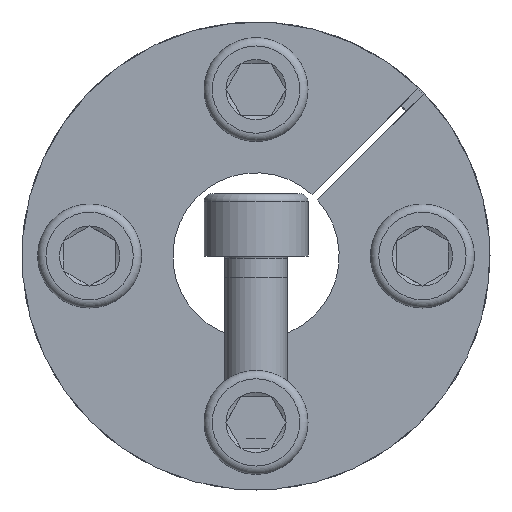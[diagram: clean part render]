
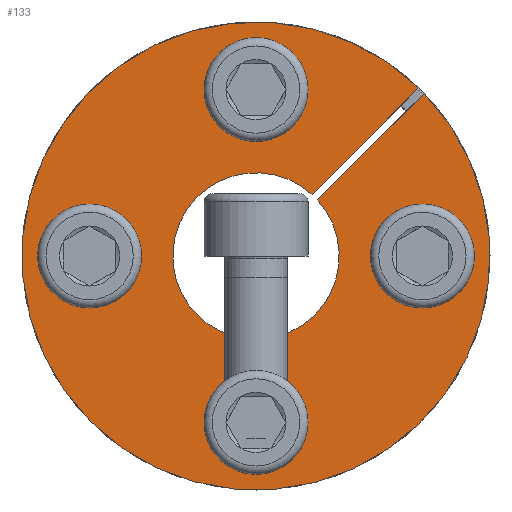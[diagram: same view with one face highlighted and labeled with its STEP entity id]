
A CAD part, front view. The second image highlights one B-rep face of the part: STEP entity #133.
In plain terms, the highlighted planar face has unit normal (0, -1, 0).
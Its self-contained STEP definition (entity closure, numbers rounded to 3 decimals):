
#133 = ADVANCED_FACE( '', ( #248, #249, #250, #251, #252 ), #253, .F. );
#248 = FACE_BOUND( '', #368, .T. );
#249 = FACE_BOUND( '', #369, .T. );
#250 = FACE_BOUND( '', #370, .T. );
#251 = FACE_BOUND( '', #371, .T. );
#252 = FACE_OUTER_BOUND( '', #372, .T. );
#253 = PLANE( '', #373 );
#368 = EDGE_LOOP( '', ( #672 ) );
#369 = EDGE_LOOP( '', ( #673 ) );
#370 = EDGE_LOOP( '', ( #674 ) );
#371 = EDGE_LOOP( '', ( #675 ) );
#372 = EDGE_LOOP( '', ( #676, #677, #678, #679 ) );
#373 = AXIS2_PLACEMENT_3D( '', #680, #681, #682 );
#672 = ORIENTED_EDGE( '', *, *, #1019, .T. );
#673 = ORIENTED_EDGE( '', *, *, #1016, .T. );
#674 = ORIENTED_EDGE( '', *, *, #1020, .T. );
#675 = ORIENTED_EDGE( '', *, *, #954, .T. );
#676 = ORIENTED_EDGE( '', *, *, #984, .T. );
#677 = ORIENTED_EDGE( '', *, *, #959, .T. );
#678 = ORIENTED_EDGE( '', *, *, #1010, .T. );
#679 = ORIENTED_EDGE( '', *, *, #1008, .F. );
#680 = CARTESIAN_POINT( '', ( 0., 0., 22.5 ) );
#681 = DIRECTION( '', ( 0., 1., 0. ) );
#682 = DIRECTION( '', ( 0., 0., 1. ) );
#954 = EDGE_CURVE( '', #1280, #1280, #1281, .T. );
#959 = EDGE_CURVE( '', #1284, #1288, #1290, .T. );
#984 = EDGE_CURVE( '', #1318, #1284, #1331, .T. );
#1008 = EDGE_CURVE( '', #1318, #1362, #1364, .T. );
#1010 = EDGE_CURVE( '', #1288, #1362, #1366, .T. );
#1016 = EDGE_CURVE( '', #1372, #1372, #1373, .T. );
#1019 = EDGE_CURVE( '', #1376, #1376, #1377, .T. );
#1020 = EDGE_CURVE( '', #1378, #1378, #1379, .T. );
#1280 = VERTEX_POINT( '', #1977 );
#1281 = CIRCLE( '', #1978, 3. );
#1284 = VERTEX_POINT( '', #1981 );
#1288 = VERTEX_POINT( '', #1986 );
#1290 = CIRCLE( '', #1989, 22.5 );
#1318 = VERTEX_POINT( '', #2021 );
#1331 = LINE( '', #2050, #2051 );
#1362 = VERTEX_POINT( '', #2091 );
#1364 = CIRCLE( '', #2094, 8. );
#1366 = LINE( '', #2096, #2097 );
#1372 = VERTEX_POINT( '', #2109 );
#1373 = CIRCLE( '', #2110, 3. );
#1376 = VERTEX_POINT( '', #2113 );
#1377 = CIRCLE( '', #2114, 3. );
#1378 = VERTEX_POINT( '', #2115 );
#1379 = CIRCLE( '', #2116, 3. );
#1977 = CARTESIAN_POINT( '', ( -16., 0., 3. ) );
#1978 = AXIS2_PLACEMENT_3D( '', #2271, #2272, #2273 );
#1981 = CARTESIAN_POINT( '', ( 15.643, 0., 16.173 ) );
#1986 = CARTESIAN_POINT( '', ( 16.173, 0., 15.643 ) );
#1989 = AXIS2_PLACEMENT_3D( '', #2279, #2280, #2281 );
#2021 = CARTESIAN_POINT( '', ( 5.385, 0., 5.916 ) );
#2050 = CARTESIAN_POINT( '', ( 5.385, 0., 5.916 ) );
#2051 = VECTOR( '', #2311, 1000. );
#2091 = CARTESIAN_POINT( '', ( 5.916, 0., 5.385 ) );
#2094 = AXIS2_PLACEMENT_3D( '', #2343, #2344, #2345 );
#2096 = CARTESIAN_POINT( '', ( 16.175, 0., 15.645 ) );
#2097 = VECTOR( '', #2346, 1000. );
#2109 = CARTESIAN_POINT( '', ( 16., 0., -3. ) );
#2110 = AXIS2_PLACEMENT_3D( '', #2350, #2351, #2352 );
#2113 = CARTESIAN_POINT( '', ( 3., 0., 16. ) );
#2114 = AXIS2_PLACEMENT_3D( '', #2353, #2354, #2355 );
#2115 = CARTESIAN_POINT( '', ( -3., 0., -16. ) );
#2116 = AXIS2_PLACEMENT_3D( '', #2356, #2357, #2358 );
#2271 = CARTESIAN_POINT( '', ( -16., 0., 0. ) );
#2272 = DIRECTION( '', ( 0., 1., 0. ) );
#2273 = DIRECTION( '', ( 0., 0., 1. ) );
#2279 = CARTESIAN_POINT( '', ( 0., 0., 0. ) );
#2280 = DIRECTION( '', ( 0., -1., 0. ) );
#2281 = DIRECTION( '', ( 0., 0., -1. ) );
#2311 = DIRECTION( '', ( 0.707, 0., 0.707 ) );
#2343 = CARTESIAN_POINT( '', ( 0., 0., 0. ) );
#2344 = DIRECTION( '', ( 0., -1., 0. ) );
#2345 = DIRECTION( '', ( 0., 0., -1. ) );
#2346 = DIRECTION( '', ( -0.707, 0., -0.707 ) );
#2350 = CARTESIAN_POINT( '', ( 16., 0., 0. ) );
#2351 = DIRECTION( '', ( 0., 1., 0. ) );
#2352 = DIRECTION( '', ( 0., 0., -1. ) );
#2353 = CARTESIAN_POINT( '', ( 0., 0., 16. ) );
#2354 = DIRECTION( '', ( 0., 1., 0. ) );
#2355 = DIRECTION( '', ( 1., 0., 0. ) );
#2356 = CARTESIAN_POINT( '', ( 0., 0., -16. ) );
#2357 = DIRECTION( '', ( 0., 1., 0. ) );
#2358 = DIRECTION( '', ( -1., 0., 0. ) );
